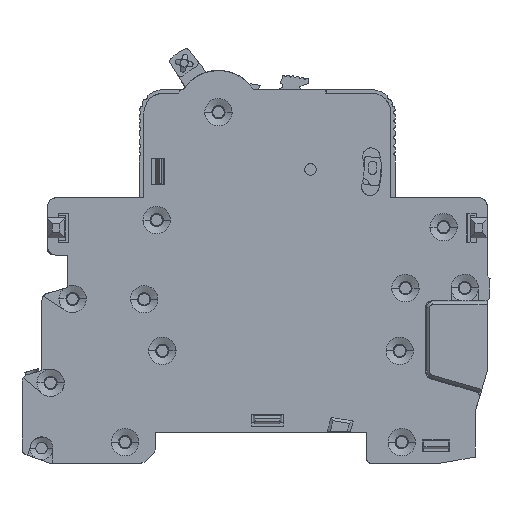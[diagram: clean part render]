
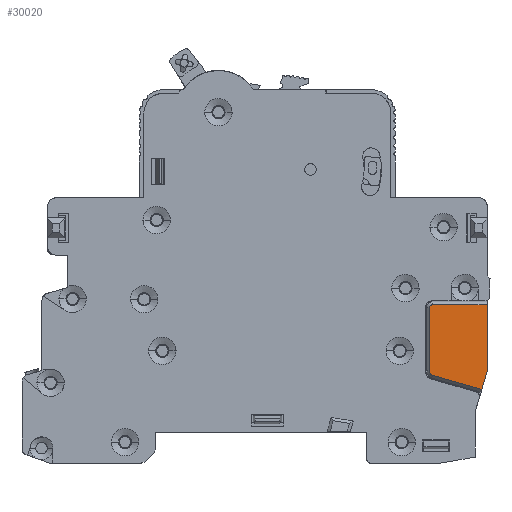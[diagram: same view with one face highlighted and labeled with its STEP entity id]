
A CAD part, left-side view. The second image highlights one B-rep face of the part: STEP entity #30020.
In plain terms, the highlighted planar face has unit normal (-1, 0, 0) as drawn and (0, 0, 1) by its records, which use the part's own axes.
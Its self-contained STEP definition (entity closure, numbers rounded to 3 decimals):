
#1539 = DIRECTION ( 'NONE',  ( -1., 0., 0. ) ) ;
#1584 = ORIENTED_EDGE ( 'NONE', *, *, #23554, .T. ) ;
#1779 = FACE_OUTER_BOUND ( 'NONE', #48610, .T. ) ;
#1987 = CIRCLE ( 'NONE', #36526, 0.5 ) ;
#4141 = VERTEX_POINT ( 'NONE', #69578 ) ;
#6822 = CARTESIAN_POINT ( 'NONE',  ( 92.737, 16.981, 1.1 ) ) ;
#7676 = CIRCLE ( 'NONE', #25852, 0.8 ) ;
#7798 = VERTEX_POINT ( 'NONE', #54174 ) ;
#8324 = DIRECTION ( 'NONE',  ( 0., -1., 0. ) ) ;
#8430 = ORIENTED_EDGE ( 'NONE', *, *, #69891, .T. ) ;
#9105 = CARTESIAN_POINT ( 'NONE',  ( 63.641, -54.231, 1.1 ) ) ;
#10179 = LINE ( 'NONE', #17104, #85312 ) ;
#10776 = LINE ( 'NONE', #36350, #62850 ) ;
#14817 = LINE ( 'NONE', #28659, #40533 ) ;
#15042 = CARTESIAN_POINT ( 'NONE',  ( 92.658, 28.839, 1.1 ) ) ;
#16312 = DIRECTION ( 'NONE',  ( 0., 1., 0. ) ) ;
#17104 = CARTESIAN_POINT ( 'NONE',  ( 102.308, 29.339, 1.1 ) ) ;
#17868 = VECTOR ( 'NONE', #79067, 1000. ) ;
#18549 = EDGE_CURVE ( 'NONE', #18553, #4141, #14817, .T. ) ;
#18553 = VERTEX_POINT ( 'NONE', #81425 ) ;
#23554 = EDGE_CURVE ( 'NONE', #46172, #46440, #25582, .T. ) ;
#25582 = LINE ( 'NONE', #51958, #81976 ) ;
#25852 = AXIS2_PLACEMENT_3D ( 'NONE', #66873, #40059, #1539 ) ;
#25937 = EDGE_CURVE ( 'NONE', #4141, #39455, #7676, .T. ) ;
#26298 = LINE ( 'NONE', #6822, #17868 ) ;
#27876 = CARTESIAN_POINT ( 'NONE',  ( 92.737, 16.981, 1.1 ) ) ;
#28558 = DIRECTION ( 'NONE',  ( 0., 1., 0. ) ) ;
#28659 = CARTESIAN_POINT ( 'NONE',  ( 92.158, 28.839, 1.1 ) ) ;
#30020 = ADVANCED_FACE ( 'NONE', ( #1779 ), #74877, .T. ) ;
#30720 = CARTESIAN_POINT ( 'NONE',  ( 102.308, 17.687, 1.1 ) ) ;
#34990 = EDGE_CURVE ( 'NONE', #46440, #56012, #10776, .T. ) ;
#35969 = DIRECTION ( 'NONE',  ( 0., 0., 1. ) ) ;
#36350 = CARTESIAN_POINT ( 'NONE',  ( 102.308, 17.687, 1.1 ) ) ;
#36526 = AXIS2_PLACEMENT_3D ( 'NONE', #15042, #75579, #16312 ) ;
#39455 = VERTEX_POINT ( 'NONE', #27876 ) ;
#40059 = DIRECTION ( 'NONE',  ( 0., 0., 1. ) ) ;
#40533 = VECTOR ( 'NONE', #8324, 1000. ) ;
#43624 = ORIENTED_EDGE ( 'NONE', *, *, #25937, .T. ) ;
#46172 = VERTEX_POINT ( 'NONE', #46772 ) ;
#46440 = VERTEX_POINT ( 'NONE', #30720 ) ;
#46772 = CARTESIAN_POINT ( 'NONE',  ( 101.369, 14.5, 1.1 ) ) ;
#48610 = EDGE_LOOP ( 'NONE', ( #84029, #58972, #43624, #62559, #1584, #61300, #8430 ) ) ;
#51958 = CARTESIAN_POINT ( 'NONE',  ( 101.369, 14.5, 1.1 ) ) ;
#54174 = CARTESIAN_POINT ( 'NONE',  ( 92.658, 29.339, 1.1 ) ) ;
#54535 = DIRECTION ( 'NONE',  ( 1., 0., 0. ) ) ;
#56012 = VERTEX_POINT ( 'NONE', #59408 ) ;
#58972 = ORIENTED_EDGE ( 'NONE', *, *, #18549, .T. ) ;
#59408 = CARTESIAN_POINT ( 'NONE',  ( 102.308, 29.339, 1.1 ) ) ;
#61300 = ORIENTED_EDGE ( 'NONE', *, *, #34990, .T. ) ;
#62559 = ORIENTED_EDGE ( 'NONE', *, *, #72309, .T. ) ;
#62850 = VECTOR ( 'NONE', #28558, 1000. ) ;
#64467 = AXIS2_PLACEMENT_3D ( 'NONE', #9105, #35969, #54535 ) ;
#66873 = CARTESIAN_POINT ( 'NONE',  ( 92.958, 17.75, 1.1 ) ) ;
#69578 = CARTESIAN_POINT ( 'NONE',  ( 92.158, 17.75, 1.1 ) ) ;
#69891 = EDGE_CURVE ( 'NONE', #56012, #7798, #10179, .T. ) ;
#69899 = DIRECTION ( 'NONE',  ( -1., 0., 0. ) ) ;
#72309 = EDGE_CURVE ( 'NONE', #39455, #46172, #26298, .T. ) ;
#74877 = PLANE ( 'NONE',  #64467 ) ;
#75579 = DIRECTION ( 'NONE',  ( 0., 0., 1. ) ) ;
#78351 = DIRECTION ( 'NONE',  ( 0.283, 0.959, 0. ) ) ;
#79067 = DIRECTION ( 'NONE',  ( 0.961, -0.276, 0. ) ) ;
#81425 = CARTESIAN_POINT ( 'NONE',  ( 92.158, 28.839, 1.1 ) ) ;
#81659 = EDGE_CURVE ( 'NONE', #7798, #18553, #1987, .T. ) ;
#81976 = VECTOR ( 'NONE', #78351, 1000. ) ;
#84029 = ORIENTED_EDGE ( 'NONE', *, *, #81659, .T. ) ;
#85312 = VECTOR ( 'NONE', #69899, 1000. ) ;
